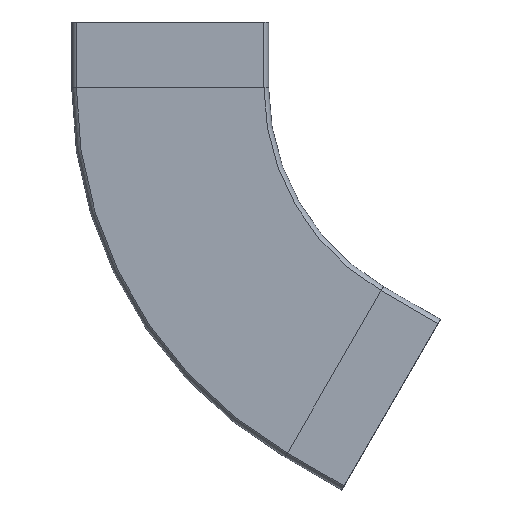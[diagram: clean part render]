
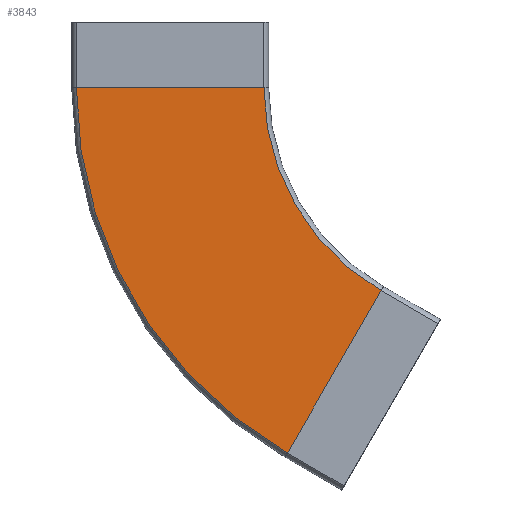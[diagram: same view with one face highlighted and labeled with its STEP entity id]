
A CAD part, front view. The second image highlights one B-rep face of the part: STEP entity #3843.
In plain terms, the highlighted planar face has unit normal (0, -1, 0).
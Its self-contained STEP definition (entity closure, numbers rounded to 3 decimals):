
#2 = VECTOR ( 'NONE', #2938, 1000. ) ;
#32 = ORIENTED_EDGE ( 'NONE', *, *, #2012, .T. ) ;
#47 = CARTESIAN_POINT ( 'NONE',  ( -57.15, -56.5, -40. ) ) ;
#90 = EDGE_CURVE ( 'NONE', #2462, #767, #2728, .T. ) ;
#264 = CARTESIAN_POINT ( 'NONE',  ( 128.575, -56.5, -163.712 ) ) ;
#289 = DIRECTION ( 'NONE',  ( 0., 1., 0. ) ) ;
#767 = VERTEX_POINT ( 'NONE', #47 ) ;
#780 = VERTEX_POINT ( 'NONE', #4434 ) ;
#889 = AXIS2_PLACEMENT_3D ( 'NONE', #264, #289, #2922 ) ;
#904 = EDGE_LOOP ( 'NONE', ( #32, #2385, #985, #5437 ) ) ;
#950 = CARTESIAN_POINT ( 'NONE',  ( 0., -56.5, -40. ) ) ;
#985 = ORIENTED_EDGE ( 'NONE', *, *, #5228, .T. ) ;
#1013 = CARTESIAN_POINT ( 'NONE',  ( 71.425, -56.5, -262.698 ) ) ;
#1099 = VERTEX_POINT ( 'NONE', #5215 ) ;
#1150 = LINE ( 'NONE', #1615, #2 ) ;
#1437 = AXIS2_PLACEMENT_3D ( 'NONE', #5626, #2037, #1612 ) ;
#1612 = DIRECTION ( 'NONE',  ( 0., 0., 1. ) ) ;
#1615 = CARTESIAN_POINT ( 'NONE',  ( 128.575, -56.5, -163.712 ) ) ;
#1651 = DIRECTION ( 'NONE',  ( 0., 1., 0. ) ) ;
#1957 = CIRCLE ( 'NONE', #5356, 142.85 ) ;
#2012 = EDGE_CURVE ( 'NONE', #780, #767, #2290, .T. ) ;
#2037 = DIRECTION ( 'NONE',  ( 0., 1., 0. ) ) ;
#2046 = PLANE ( 'NONE',  #889 ) ;
#2290 = LINE ( 'NONE', #950, #4465 ) ;
#2385 = ORIENTED_EDGE ( 'NONE', *, *, #90, .F. ) ;
#2462 = VERTEX_POINT ( 'NONE', #1013 ) ;
#2509 = DIRECTION ( 'NONE',  ( 0., 0., 1. ) ) ;
#2728 = CIRCLE ( 'NONE', #1437, 257.15 ) ;
#2922 = DIRECTION ( 'NONE',  ( 0., 0., 1. ) ) ;
#2938 = DIRECTION ( 'NONE',  ( 0.5, 0., 0.866 ) ) ;
#3843 = ADVANCED_FACE ( 'NONE', ( #3962 ), #2046, .F. ) ;
#3962 = FACE_OUTER_BOUND ( 'NONE', #904, .T. ) ;
#4078 = DIRECTION ( 'NONE',  ( -1., 0., 0. ) ) ;
#4434 = CARTESIAN_POINT ( 'NONE',  ( 57.15, -56.5, -40. ) ) ;
#4465 = VECTOR ( 'NONE', #4078, 1000. ) ;
#4653 = EDGE_CURVE ( 'NONE', #1099, #780, #1957, .T. ) ;
#5215 = CARTESIAN_POINT ( 'NONE',  ( 128.575, -56.5, -163.712 ) ) ;
#5228 = EDGE_CURVE ( 'NONE', #2462, #1099, #1150, .T. ) ;
#5356 = AXIS2_PLACEMENT_3D ( 'NONE', #5618, #1651, #2509 ) ;
#5437 = ORIENTED_EDGE ( 'NONE', *, *, #4653, .T. ) ;
#5618 = CARTESIAN_POINT ( 'NONE',  ( 200., -56.5, -40. ) ) ;
#5626 = CARTESIAN_POINT ( 'NONE',  ( 200., -56.5, -40. ) ) ;
